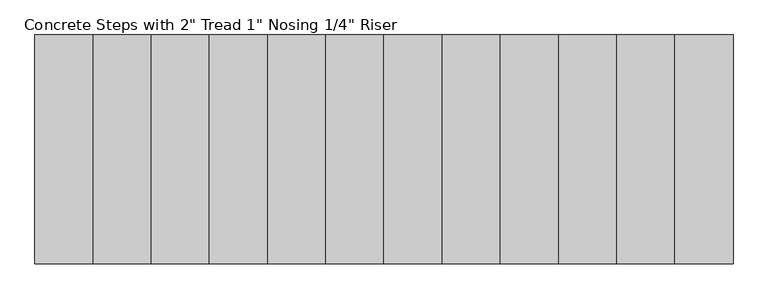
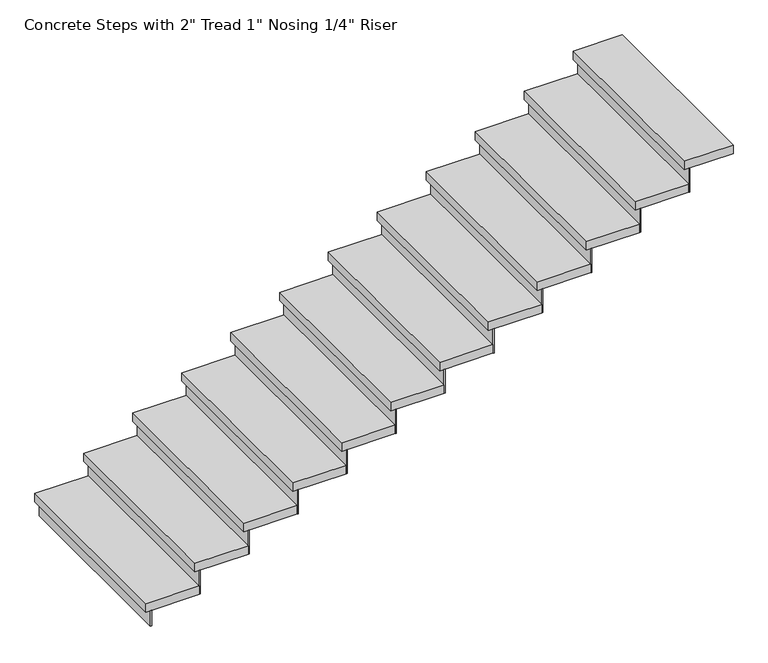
"""IFC4 building model written with IfcOpenShell, lengths in millimetres: stair flight geometry."""

from ifc_helpers import new_model, si_unit, frame, origin, origin_with_axes, place, context, project, spatial, polyline, outline, extrude, source, transform, mapped, element, save


def stair_flight_4eb0ff3a(model_context):
    return source(origin(), model_context, "Body", "SweptSolid", [
        extrude(outline(polyline([(-18973.5313244, -18551.5554387), (-18979.8813244, -18551.5554387), (-18979.8813244, -17453.1578387), (-18973.5313244, -17453.1578387), (-18973.5313244, -18551.5554387)])), origin_with_axes(), (0.0, 0.0, 1.0), 94.3428571),
        extrude(outline(polyline([(-18700.4813244, -17453.1578387), (-18700.4813244, -18551.5554387), (-19005.2813244, -18551.5554387), (-19005.2813244, -17453.1578387), (-18700.4813244, -17453.1578387)])), frame((0.0, 0.0, 94.3428571), z_axis=(0.0, 0.0, 1.0), x_axis=(1.0, 0.0, 0.0)), (0.0, 0.0, 1.0), 50.8),
        extrude(outline(polyline([(-18694.1313244, -18551.5554387), (-18700.4813244, -18551.5554387), (-18700.4813244, -17453.1578387), (-18694.1313244, -17453.1578387), (-18694.1313244, -18551.5554387)])), frame((0.0, 0.0, 94.3428571), z_axis=(0.0, 0.0, 1.0), x_axis=(1.0, 0.0, 0.0)), (0.0, 0.0, 1.0), 145.1428571),
        extrude(outline(polyline([(-18421.0813244, -17453.1578387), (-18421.0813244, -18551.5554387), (-18725.8813244, -18551.5554387), (-18725.8813244, -17453.1578387), (-18421.0813244, -17453.1578387)])), frame((0.0, 0.0, 239.4857143), z_axis=(0.0, 0.0, 1.0), x_axis=(1.0, 0.0, 0.0)), (0.0, 0.0, 1.0), 50.8),
        extrude(outline(polyline([(-18414.7313244, -18551.5554387), (-18421.0813244, -18551.5554387), (-18421.0813244, -17453.1578387), (-18414.7313244, -17453.1578387), (-18414.7313244, -18551.5554387)])), frame((0.0, 0.0, 239.4857143), z_axis=(0.0, 0.0, 1.0), x_axis=(1.0, 0.0, 0.0)), (0.0, 0.0, 1.0), 145.1428571),
        extrude(outline(polyline([(-18141.6813244, -17453.1578387), (-18141.6813244, -18551.5554387), (-18446.4813244, -18551.5554387), (-18446.4813244, -17453.1578387), (-18141.6813244, -17453.1578387)])), frame((0.0, 0.0, 384.6285714), z_axis=(0.0, 0.0, 1.0), x_axis=(1.0, 0.0, 0.0)), (0.0, 0.0, 1.0), 50.8),
        extrude(outline(polyline([(-18135.3313244, -18551.5554387), (-18141.6813244, -18551.5554387), (-18141.6813244, -17453.1578387), (-18135.3313244, -17453.1578387), (-18135.3313244, -18551.5554387)])), frame((0.0, 0.0, 384.6285714), z_axis=(0.0, 0.0, 1.0), x_axis=(1.0, 0.0, 0.0)), (0.0, 0.0, 1.0), 145.1428571),
        extrude(outline(polyline([(-17862.2813244, -17453.1578387), (-17862.2813244, -18551.5554387), (-18167.0813244, -18551.5554387), (-18167.0813244, -17453.1578387), (-17862.2813244, -17453.1578387)])), frame((0.0, 0.0, 529.7714286), z_axis=(0.0, 0.0, 1.0), x_axis=(1.0, 0.0, 0.0)), (0.0, 0.0, 1.0), 50.8),
        extrude(outline(polyline([(-17855.9313244, -18551.5554387), (-17862.2813244, -18551.5554387), (-17862.2813244, -17453.1578387), (-17855.9313244, -17453.1578387), (-17855.9313244, -18551.5554387)])), frame((0.0, 0.0, 529.7714286), z_axis=(0.0, 0.0, 1.0), x_axis=(1.0, 0.0, 0.0)), (0.0, 0.0, 1.0), 145.1428571),
        extrude(outline(polyline([(-17582.8813244, -17453.1578387), (-17582.8813244, -18551.5554387), (-17887.6813244, -18551.5554387), (-17887.6813244, -17453.1578387), (-17582.8813244, -17453.1578387)])), frame((0.0, 0.0, 674.9142857), z_axis=(0.0, 0.0, 1.0), x_axis=(1.0, 0.0, 0.0)), (0.0, 0.0, 1.0), 50.8),
        extrude(outline(polyline([(-17576.5313244, -18551.5554387), (-17582.8813244, -18551.5554387), (-17582.8813244, -17453.1578387), (-17576.5313244, -17453.1578387), (-17576.5313244, -18551.5554387)])), frame((0.0, 0.0, 674.9142857), z_axis=(0.0, 0.0, 1.0), x_axis=(1.0, 0.0, 0.0)), (0.0, 0.0, 1.0), 145.1428571),
        extrude(outline(polyline([(-17303.4813244, -17453.1578387), (-17303.4813244, -18551.5554387), (-17608.2813244, -18551.5554387), (-17608.2813244, -17453.1578387), (-17303.4813244, -17453.1578387)])), frame((0.0, 0.0, 820.0571429), z_axis=(0.0, 0.0, 1.0), x_axis=(1.0, 0.0, 0.0)), (0.0, 0.0, 1.0), 50.8),
        extrude(outline(polyline([(-17297.1313244, -18551.5554387), (-17303.4813244, -18551.5554387), (-17303.4813244, -17453.1578387), (-17297.1313244, -17453.1578387), (-17297.1313244, -18551.5554387)])), frame((0.0, 0.0, 820.0571429), z_axis=(0.0, 0.0, 1.0), x_axis=(1.0, 0.0, 0.0)), (0.0, 0.0, 1.0), 145.1428571),
        extrude(outline(polyline([(-17024.0813244, -17453.1578387), (-17024.0813244, -18551.5554387), (-17328.8813244, -18551.5554387), (-17328.8813244, -17453.1578387), (-17024.0813244, -17453.1578387)])), frame((0.0, 0.0, 965.2), z_axis=(0.0, 0.0, 1.0), x_axis=(1.0, 0.0, 0.0)), (0.0, 0.0, 1.0), 50.8),
        extrude(outline(polyline([(-17017.7313244, -18551.5554387), (-17024.0813244, -18551.5554387), (-17024.0813244, -17453.1578387), (-17017.7313244, -17453.1578387), (-17017.7313244, -18551.5554387)])), frame((0.0, 0.0, 965.2), z_axis=(0.0, 0.0, 1.0), x_axis=(1.0, 0.0, 0.0)), (0.0, 0.0, 1.0), 145.1428571),
        extrude(outline(polyline([(-16744.6813244, -17453.1578387), (-16744.6813244, -18551.5554387), (-17049.4813244, -18551.5554387), (-17049.4813244, -17453.1578387), (-16744.6813244, -17453.1578387)])), frame((0.0, 0.0, 1110.3428571), z_axis=(0.0, 0.0, 1.0), x_axis=(1.0, 0.0, 0.0)), (0.0, 0.0, 1.0), 50.8),
        extrude(outline(polyline([(-16738.3313244, -18551.5554387), (-16744.6813244, -18551.5554387), (-16744.6813244, -17453.1578387), (-16738.3313244, -17453.1578387), (-16738.3313244, -18551.5554387)])), frame((0.0, 0.0, 1110.3428571), z_axis=(0.0, 0.0, 1.0), x_axis=(1.0, 0.0, 0.0)), (0.0, 0.0, 1.0), 145.1428571),
        extrude(outline(polyline([(-16465.2813244, -17453.1578387), (-16465.2813244, -18551.5554387), (-16770.0813244, -18551.5554387), (-16770.0813244, -17453.1578387), (-16465.2813244, -17453.1578387)])), frame((0.0, 0.0, 1255.4857143), z_axis=(0.0, 0.0, 1.0), x_axis=(1.0, 0.0, 0.0)), (0.0, 0.0, 1.0), 50.8),
        extrude(outline(polyline([(-16458.9313244, -18551.5554387), (-16465.2813244, -18551.5554387), (-16465.2813244, -17453.1578387), (-16458.9313244, -17453.1578387), (-16458.9313244, -18551.5554387)])), frame((0.0, 0.0, 1255.4857143), z_axis=(0.0, 0.0, 1.0), x_axis=(1.0, 0.0, 0.0)), (0.0, 0.0, 1.0), 145.1428571),
        extrude(outline(polyline([(-16185.8813244, -17453.1578387), (-16185.8813244, -18551.5554387), (-16490.6813244, -18551.5554387), (-16490.6813244, -17453.1578387), (-16185.8813244, -17453.1578387)])), frame((0.0, 0.0, 1400.6285714), z_axis=(0.0, 0.0, 1.0), x_axis=(1.0, 0.0, 0.0)), (0.0, 0.0, 1.0), 50.8),
        extrude(outline(polyline([(-16179.5313244, -18551.5554387), (-16185.8813244, -18551.5554387), (-16185.8813244, -17453.1578387), (-16179.5313244, -17453.1578387), (-16179.5313244, -18551.5554387)])), frame((0.0, 0.0, 1400.6285714), z_axis=(0.0, 0.0, 1.0), x_axis=(1.0, 0.0, 0.0)), (0.0, 0.0, 1.0), 145.1428571),
        extrude(outline(polyline([(-15906.4813244, -17453.1578387), (-15906.4813244, -18551.5554387), (-16211.2813244, -18551.5554387), (-16211.2813244, -17453.1578387), (-15906.4813244, -17453.1578387)])), frame((0.0, 0.0, 1545.7714286), z_axis=(0.0, 0.0, 1.0), x_axis=(1.0, 0.0, 0.0)), (0.0, 0.0, 1.0), 50.8),
        extrude(outline(polyline([(-15900.1313244, -18551.5554387), (-15906.4813244, -18551.5554387), (-15906.4813244, -17453.1578387), (-15900.1313244, -17453.1578387), (-15900.1313244, -18551.5554387)])), frame((0.0, 0.0, 1545.7714286), z_axis=(0.0, 0.0, 1.0), x_axis=(1.0, 0.0, 0.0)), (0.0, 0.0, 1.0), 145.1428571),
        extrude(outline(polyline([(-15652.4813244, -17453.1578387), (-15652.4813244, -18551.5554387), (-15931.8813244, -18551.5554387), (-15931.8813244, -17453.1578387), (-15652.4813244, -17453.1578387)])), frame((0.0, 0.0, 1690.9142857), z_axis=(0.0, 0.0, 1.0), x_axis=(1.0, 0.0, 0.0)), (0.0, 0.0, 1.0), 50.8),
    ])


if __name__ == "__main__":
    model = new_model("IFC4")
    model_context = context("Model", 3, world=origin())
    ifc_project = project(units=[si_unit("LENGTHUNIT", "METRE", prefix="MILLI")], contexts=[model_context])
    site = spatial("IfcSite", under=ifc_project)
    building = spatial("IfcBuilding", under=site)
    placement = place(None, origin())
    stair_flight_shape = stair_flight_4eb0ff3a(model_context)
    element("IfcStairFlight", 1, ObjectType="Concrete Steps with 2\" Tread 1\" Nosing 1/4\" Riser", at=placement, inside=building, context=model_context, shape_type="MappedRepresentation", body=[
        mapped(stair_flight_shape, transform((0.0, 0.0, 0.0), x_axis=(1.0, 0.0, 0.0), y_axis=(0.0, 1.0, 0.0), z_axis=(0.0, 0.0, 1.0))),
    ])
    save(model, "model.ifc")
